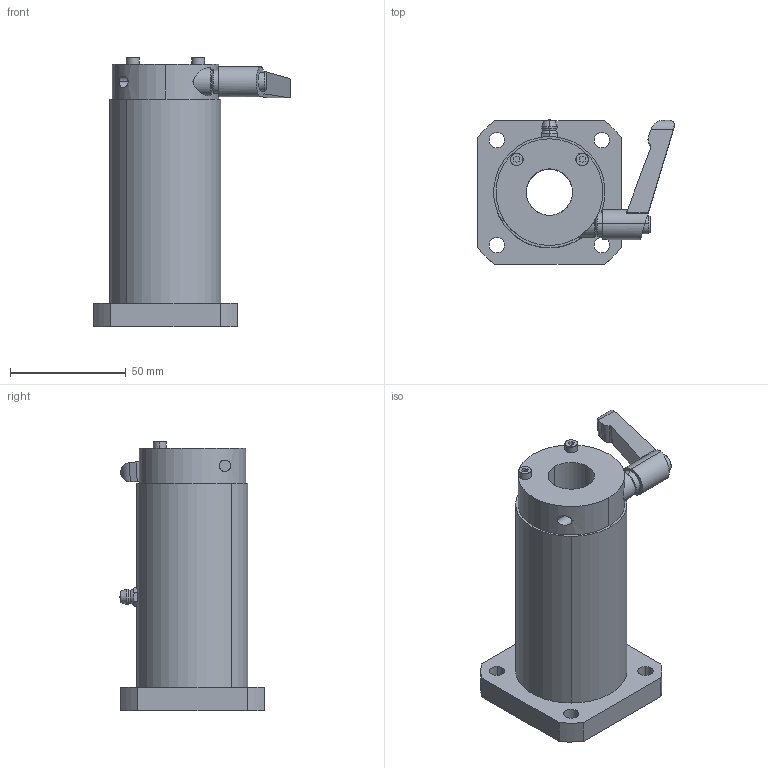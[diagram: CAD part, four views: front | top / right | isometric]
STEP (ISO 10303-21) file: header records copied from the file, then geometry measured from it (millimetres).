
FILE_DESCRIPTION (( 'STEP AP214' ), '1' );
FILE_NAME ('LFWK20-OH-CS.STEP', '2023-06-27T02:10:41', ( '' ), ( '' ), 'SwSTEP 2.0', 'SolidWorks 2019', '' );
FILE_SCHEMA (( 'AUTOMOTIVE_DESIGN' ));
Length unit declared in the file: millimetre
Products named in the file (3): LFWK20-OH; “ÁSCK2015SS-S3.4; LFWK20-OH-CS
Assembly tree (2 placements, depth 2):
  LFWK20-OH-CS
    LFWK20-OH
    “ÁSCK2015SS-S3.4
Bounding box: 84.9 x 62.4 x 116 mm (x, y, z)
Volume: 187106.2 mm3; surface area: 44500.6 mm2
Topology: 3 solids, 9 shells, 231 faces, 563 edges, 357 vertices
Faces by surface type: cylinder 83, plane 69, bspline 47, cone 20, torus 8, sphere 4
Entity records: 10087 total; most frequent: CARTESIAN_POINT 2274, DIRECTION 1165, ORIENTED_EDGE 1122, EDGE_CURVE 561, AXIS2_PLACEMENT_3D 481, VERTEX_POINT 356, CIRCLE 292, EDGE_LOOP 279
